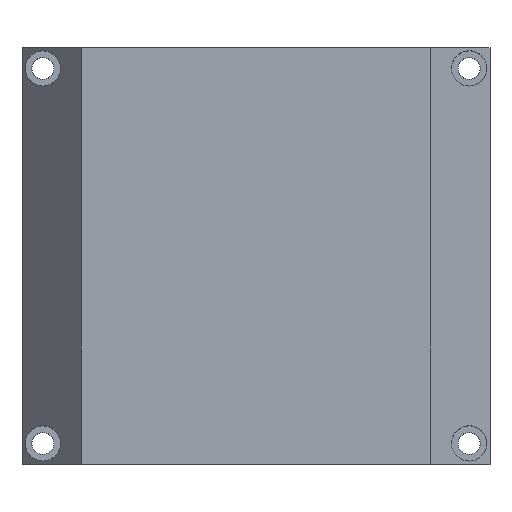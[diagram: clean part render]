
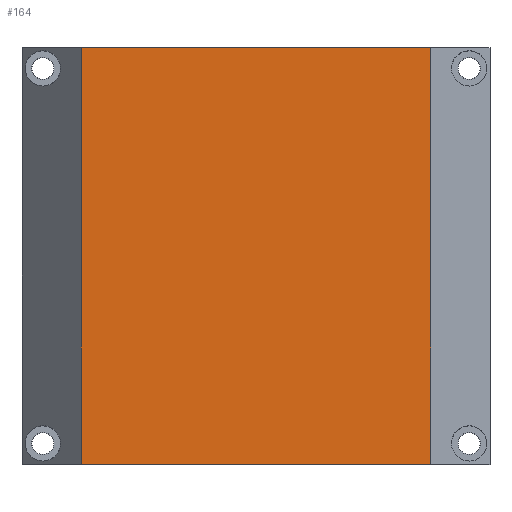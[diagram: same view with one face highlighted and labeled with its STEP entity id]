
A CAD part, top view. The second image highlights one B-rep face of the part: STEP entity #164.
In plain terms, the highlighted planar face has unit normal (0, 0, 1).
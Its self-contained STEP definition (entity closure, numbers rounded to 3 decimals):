
#84 = DIRECTION ( 'NONE',  ( 0., -1., 0. ) ) ;
#155 = CARTESIAN_POINT ( 'NONE',  ( 54.54, 65., 28. ) ) ;
#164 = ADVANCED_FACE ( 'NONE', ( #504 ), #1289, .T. ) ;
#171 = VECTOR ( 'NONE', #84, 1000. ) ;
#193 = LINE ( 'NONE', #1668, #975 ) ;
#207 = EDGE_CURVE ( 'NONE', #1879, #1923, #1573, .T. ) ;
#215 = EDGE_LOOP ( 'NONE', ( #1602, #752, #1774, #1125 ) ) ;
#299 = CARTESIAN_POINT ( 'NONE',  ( 54.54, -65., 28. ) ) ;
#355 = LINE ( 'NONE', #1019, #1262 ) ;
#366 = VERTEX_POINT ( 'NONE', #1325 ) ;
#504 = FACE_OUTER_BOUND ( 'NONE', #215, .T. ) ;
#533 = EDGE_CURVE ( 'NONE', #1923, #930, #193, .T. ) ;
#682 = DIRECTION ( 'NONE',  ( 1., 0., 0. ) ) ;
#693 = VECTOR ( 'NONE', #1141, 1000. ) ;
#752 = ORIENTED_EDGE ( 'NONE', *, *, #207, .T. ) ;
#811 = DIRECTION ( 'NONE',  ( 0., 0., 1. ) ) ;
#898 = EDGE_CURVE ( 'NONE', #930, #366, #1124, .T. ) ;
#930 = VERTEX_POINT ( 'NONE', #1504 ) ;
#957 = CARTESIAN_POINT ( 'NONE',  ( 0., 0., 28. ) ) ;
#975 = VECTOR ( 'NONE', #1097, 1000. ) ;
#998 = CARTESIAN_POINT ( 'NONE',  ( 54.54, 65., 28. ) ) ;
#1019 = CARTESIAN_POINT ( 'NONE',  ( -73., -65., 28. ) ) ;
#1097 = DIRECTION ( 'NONE',  ( -1., 0., 0. ) ) ;
#1124 = LINE ( 'NONE', #1558, #171 ) ;
#1125 = ORIENTED_EDGE ( 'NONE', *, *, #898, .T. ) ;
#1141 = DIRECTION ( 'NONE',  ( 0., 1., 0. ) ) ;
#1262 = VECTOR ( 'NONE', #1449, 1000. ) ;
#1289 = PLANE ( 'NONE',  #1600 ) ;
#1325 = CARTESIAN_POINT ( 'NONE',  ( -54.54, -65., 28. ) ) ;
#1436 = EDGE_CURVE ( 'NONE', #366, #1879, #355, .T. ) ;
#1449 = DIRECTION ( 'NONE',  ( 1., 0., 0. ) ) ;
#1504 = CARTESIAN_POINT ( 'NONE',  ( -54.54, 65., 28. ) ) ;
#1558 = CARTESIAN_POINT ( 'NONE',  ( -54.54, -65., 28. ) ) ;
#1573 = LINE ( 'NONE', #998, #693 ) ;
#1600 = AXIS2_PLACEMENT_3D ( 'NONE', #957, #811, #682 ) ;
#1602 = ORIENTED_EDGE ( 'NONE', *, *, #1436, .T. ) ;
#1668 = CARTESIAN_POINT ( 'NONE',  ( -73., 65., 28. ) ) ;
#1774 = ORIENTED_EDGE ( 'NONE', *, *, #533, .T. ) ;
#1879 = VERTEX_POINT ( 'NONE', #299 ) ;
#1923 = VERTEX_POINT ( 'NONE', #155 ) ;
